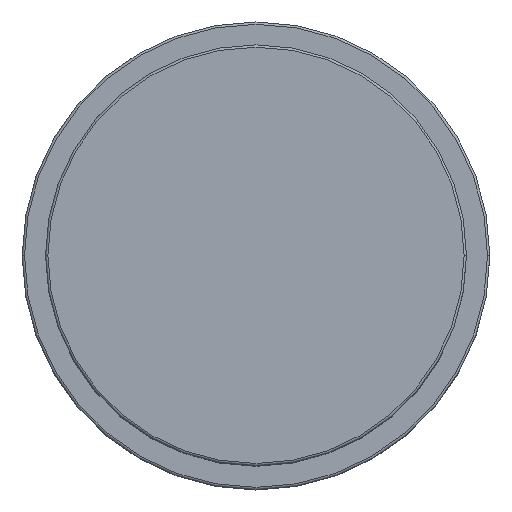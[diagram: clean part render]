
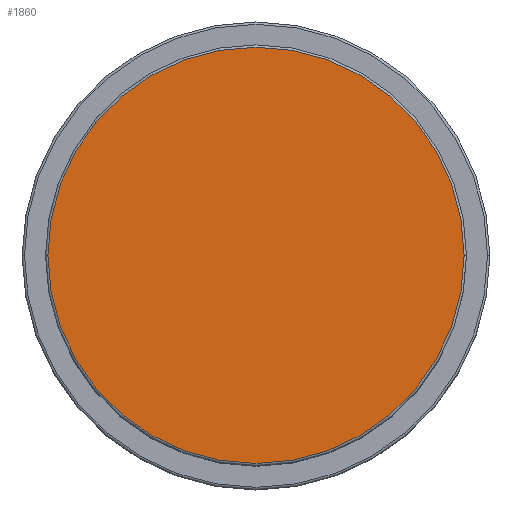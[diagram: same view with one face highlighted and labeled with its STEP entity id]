
A CAD part, top view. The second image highlights one B-rep face of the part: STEP entity #1860.
In plain terms, the highlighted planar face has unit normal (0, 0, 1).
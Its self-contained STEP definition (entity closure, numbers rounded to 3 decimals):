
#52 = DIRECTION ( 'NONE',  ( 0., 0., 1. ) ) ;
#601 = AXIS2_PLACEMENT_3D ( 'NONE', #2846, #52, #4533 ) ;
#876 = CARTESIAN_POINT ( 'NONE',  ( 44.5, 0., 82. ) ) ;
#978 = VERTEX_POINT ( 'NONE', #876 ) ;
#1342 = CARTESIAN_POINT ( 'NONE',  ( 0., 0., 82. ) ) ;
#1541 = ORIENTED_EDGE ( 'NONE', *, *, #4841, .T. ) ;
#1643 = AXIS2_PLACEMENT_3D ( 'NONE', #5785, #6921, #2441 ) ;
#1860 = ADVANCED_FACE ( 'NONE', ( #5885 ), #6189, .T. ) ;
#2311 = CARTESIAN_POINT ( 'NONE',  ( -44.5, 0., 82. ) ) ;
#2441 = DIRECTION ( 'NONE',  ( 1., 0., 0. ) ) ;
#2529 = EDGE_CURVE ( 'NONE', #3504, #978, #2563, .T. ) ;
#2563 = CIRCLE ( 'NONE', #1643, 44.5 ) ;
#2846 = CARTESIAN_POINT ( 'NONE',  ( 0., 0., 82. ) ) ;
#3038 = DIRECTION ( 'NONE',  ( 0., 0., 1. ) ) ;
#3504 = VERTEX_POINT ( 'NONE', #2311 ) ;
#3796 = AXIS2_PLACEMENT_3D ( 'NONE', #1342, #3038, #4644 ) ;
#4533 = DIRECTION ( 'NONE',  ( 1., 0., 0. ) ) ;
#4644 = DIRECTION ( 'NONE',  ( 1., 0., 0. ) ) ;
#4841 = EDGE_CURVE ( 'NONE', #978, #3504, #5718, .T. ) ;
#5242 = EDGE_LOOP ( 'NONE', ( #1541, #6131 ) ) ;
#5718 = CIRCLE ( 'NONE', #3796, 44.5 ) ;
#5785 = CARTESIAN_POINT ( 'NONE',  ( 0., 0., 82. ) ) ;
#5885 = FACE_OUTER_BOUND ( 'NONE', #5242, .T. ) ;
#6131 = ORIENTED_EDGE ( 'NONE', *, *, #2529, .T. ) ;
#6189 = PLANE ( 'NONE',  #601 ) ;
#6921 = DIRECTION ( 'NONE',  ( 0., 0., 1. ) ) ;
